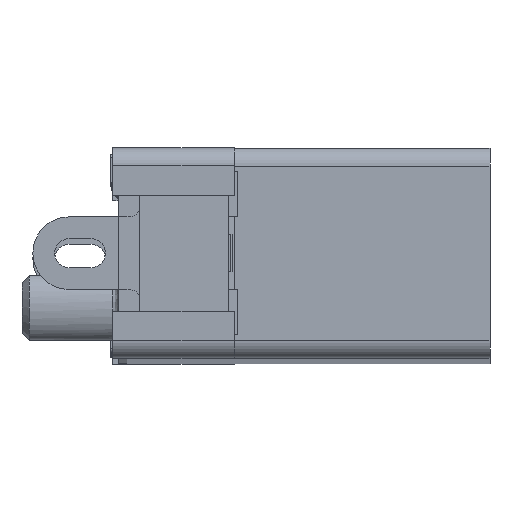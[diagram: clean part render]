
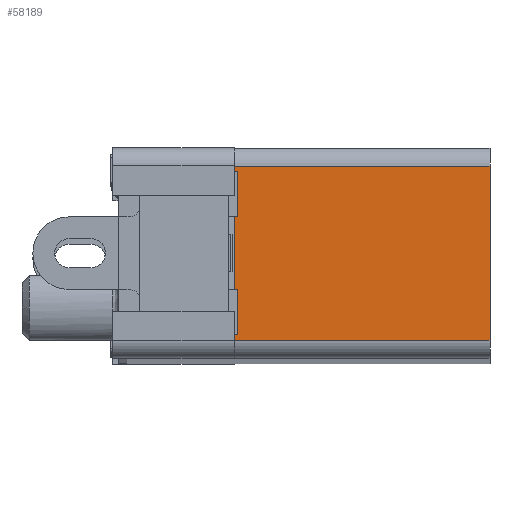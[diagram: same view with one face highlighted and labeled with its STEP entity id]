
A CAD part, top view. The second image highlights one B-rep face of the part: STEP entity #58189.
In plain terms, the highlighted planar face has unit normal (0, 0, 1).
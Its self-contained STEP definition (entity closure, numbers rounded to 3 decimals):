
#430=DIRECTION('',(0.,1.,0.));
#431=VECTOR('',#430,4.8);
#432=CARTESIAN_POINT('',(10.4,-2.4,44.5));
#433=LINE('',#432,#431);
#1461=DIRECTION('',(1.,0.,0.));
#1462=VECTOR('',#1461,7.05);
#1463=CARTESIAN_POINT('',(3.35,-2.4,44.5));
#1464=LINE('',#1463,#1462);
#1469=DIRECTION('',(0.,1.,0.));
#1470=VECTOR('',#1469,4.8);
#1471=CARTESIAN_POINT('',(3.35,-2.4,44.5));
#1472=LINE('',#1471,#1470);
#19397=DIRECTION('',(-1.,0.,0.));
#19398=VECTOR('',#19397,7.05);
#19399=CARTESIAN_POINT('',(10.4,2.4,44.5));
#19400=LINE('',#19399,#19398);
#48564=CARTESIAN_POINT('',(10.4,-2.4,44.5));
#48566=VERTEX_POINT('',#48564);
#48567=CARTESIAN_POINT('',(10.4,2.4,44.5));
#48568=VERTEX_POINT('',#48567);
#49325=CARTESIAN_POINT('',(3.35,-2.4,44.5));
#49326=VERTEX_POINT('',#49325);
#49329=CARTESIAN_POINT('',(3.35,2.4,44.5));
#49330=VERTEX_POINT('',#49329);
#58176=CARTESIAN_POINT('',(0.,2.9,44.5));
#58177=DIRECTION('',(0.,0.,1.));
#58178=DIRECTION('',(0.,-1.,0.));
#58179=AXIS2_PLACEMENT_3D('',#58176,#58177,#58178);
#58180=PLANE('',#58179);
#58181=ORIENTED_EDGE('',*,*,#58166,.F.);
#58183=ORIENTED_EDGE('',*,*,#58182,.T.);
#58185=ORIENTED_EDGE('',*,*,#58184,.F.);
#58186=ORIENTED_EDGE('',*,*,#56826,.F.);
#58187=EDGE_LOOP('',(#58181,#58183,#58185,#58186));
#58188=FACE_OUTER_BOUND('',#58187,.F.);
#58189=ADVANCED_FACE('',(#58188),#58180,.T.);
#56826=EDGE_CURVE('',#48566,#48568,#433,.T.);
#58166=EDGE_CURVE('',#49326,#48566,#1464,.T.);
#58182=EDGE_CURVE('',#49326,#49330,#1472,.T.);
#58184=EDGE_CURVE('',#48568,#49330,#19400,.T.);
